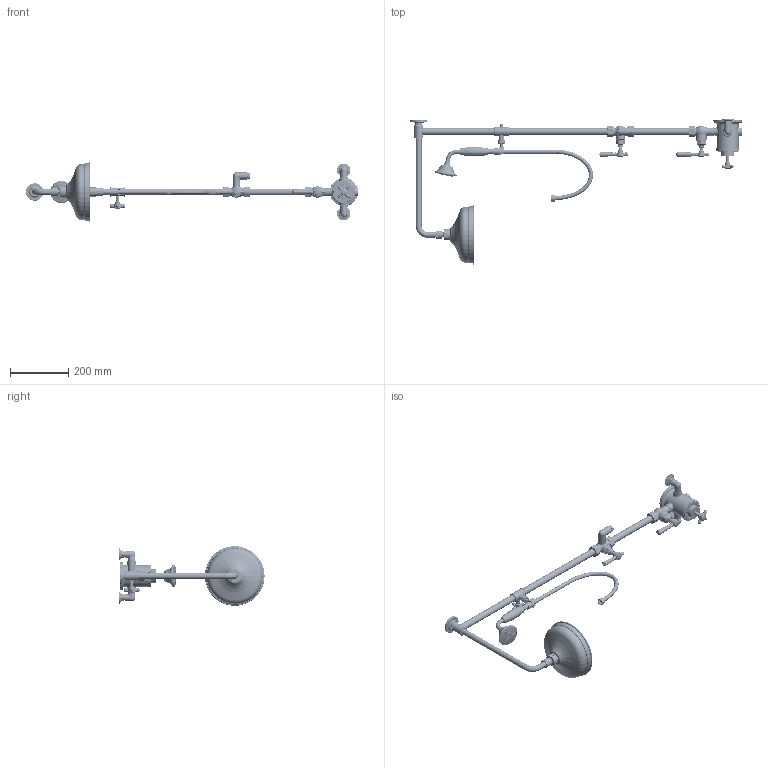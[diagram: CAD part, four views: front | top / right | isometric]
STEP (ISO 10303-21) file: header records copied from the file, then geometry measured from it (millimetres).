
FILE_DESCRIPTION(('FreeCAD Model'),'2;1');
FILE_NAME('Open CASCADE Shape Model','2025-05-29T23:17:29',('Author'),( ''),'Open CASCADE STEP processor 7.8','FreeCAD','Unknown');
FILE_SCHEMA(('AUTOMOTIVE_DESIGN { 1 0 10303 214 1 1 1 1 }'));
Length unit declared in the file: millimetre
Products named in the file (93): 1153140_ASM; 1153040_ASM; 1153040-012; 1153040-172; 1099047-573; 1128040-432; 1153040-303; JQ-16X3; JQ-22X2; 1153062-572; 1128040-162; JQ-18X2; DS-M4X4-J; 1153040-073; DS-M4X4-P; JQ-50_47X2_62; 1128040-572; ZL-017; ZL-15; ZL-016; ZL-020; PQ-42X27X2; 1153017-162; 1153003-112; 1153003-552; 1153003-572; JQ-8X1_8; 1153040-112; 1153040-113; 1153040-553; 1153040-203; 1153040-204; 1153017-103; 1153003-192; 1153040-072; DS-M6X8-J; 2004342-312; 6025154_ASM; 1153040-442; 1153040-334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
Assembly tree (120 placements, depth 5):
  1153140_ASM
    1153040_ASM
      1153040-012
      1153040-172  x2
      1099047-573  x2
      1128040-432  x2
      1153040-303  x2
      JQ-16X3  x2
      JQ-22X2  x2
      1153062-572
      1128040-162
      JQ-18X2  x2
      DS-M4X4-J
      1153040-073
      DS-M4X4-P
      JQ-50_47X2_62
      1128040-572
      ZL-017
        ZL-15
        ZL-016
      ZL-020
        ZL-15
        ZL-016
      PQ-42X27X2  x2
      1153017-162
      1153003-112
      1153003-552  x2
      1153003-572
      JQ-8X1_8
      1153040-112
      1153040-113
      1153040-553
      1153040-203
      1153040-204
      1153017-103
      1153003-192
      1153040-072
      DS-M6X8-J  x3
      2004342-312  x3
    6025154_ASM
      1153040-442  x3
      1153040-334
      1153040-432  x3
      PQ-28X21X1_8  x3
      1153040-252
      1153040-573
      1153040-333_ASM
        1153040-336_AF0
        1153040-574_AF0
      1153040-531_ASM
        8003010-532
        1153040-042
        8002013-575
      8021013-736
        8021013-734
        8021013-735
      1153040-302
      6028022002
        6028022
        6028022001
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Bounding box: 1142.6 x 499.71 x 205.42 mm (x, y, z)
Volume: 1949315 mm3; surface area: 761719.3 mm2
Topology: 107 solids, 108 shells, 4521 faces, 11129 edges, 6944 vertices
Faces by surface type: cylinder 1582, plane 1236, cone 651, bspline 531, torus 438, sphere 59, revolution 24
Entity records: 199079 total; most frequent: CARTESIAN_POINT 105157, ORIENTED_EDGE 19580, DIRECTION 18220, EDGE_CURVE 9790, AXIS2_PLACEMENT_3D 7461, VERTEX_POINT 6184, FACE_BOUND 4460, EDGE_LOOP 4460
